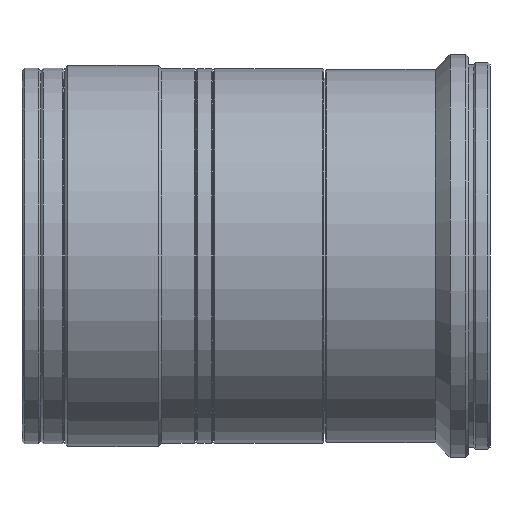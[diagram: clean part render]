
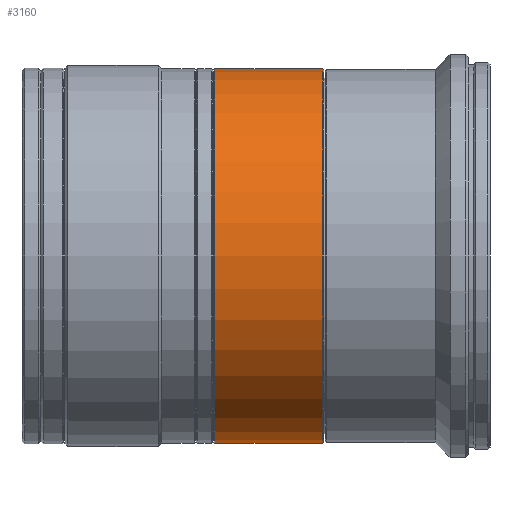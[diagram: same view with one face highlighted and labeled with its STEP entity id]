
A CAD part, front view. The second image highlights one B-rep face of the part: STEP entity #3160.
In plain terms, the highlighted cylindrical face has radius 34.9 mm (diameter 69.8 mm), a partial arc.
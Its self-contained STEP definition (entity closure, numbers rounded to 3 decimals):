
#13 = VECTOR ( 'NONE', #4553, 1000. ) ;
#49 = CARTESIAN_POINT ( 'NONE',  ( 56.036, 0., 34.9 ) ) ;
#292 = VERTEX_POINT ( 'NONE', #2474 ) ;
#397 = DIRECTION ( 'NONE',  ( -1., 0., 0. ) ) ;
#525 = VECTOR ( 'NONE', #5322, 1000. ) ;
#722 = DIRECTION ( 'NONE',  ( -1., 0., 0. ) ) ;
#768 = CARTESIAN_POINT ( 'NONE',  ( 0., 0., -34.9 ) ) ;
#984 = CARTESIAN_POINT ( 'NONE',  ( 35.936, 0., -34.9 ) ) ;
#1072 = CARTESIAN_POINT ( 'NONE',  ( 35.936, 0., 34.9 ) ) ;
#1214 = AXIS2_PLACEMENT_3D ( 'NONE', #2923, #397, #3333 ) ;
#1580 = CARTESIAN_POINT ( 'NONE',  ( 0., 0., 0. ) ) ;
#1704 = VERTEX_POINT ( 'NONE', #49 ) ;
#1860 = ORIENTED_EDGE ( 'NONE', *, *, #2606, .F. ) ;
#2053 = CARTESIAN_POINT ( 'NONE',  ( 56.036, 0., 0. ) ) ;
#2258 = VERTEX_POINT ( 'NONE', #1072 ) ;
#2373 = CIRCLE ( 'NONE', #5062, 34.9 ) ;
#2389 = CARTESIAN_POINT ( 'NONE',  ( 0., 0., 34.9 ) ) ;
#2449 = CYLINDRICAL_SURFACE ( 'NONE', #2688, 34.9 ) ;
#2471 = DIRECTION ( 'NONE',  ( 0., 0., 1. ) ) ;
#2474 = CARTESIAN_POINT ( 'NONE',  ( 56.036, 0., -34.9 ) ) ;
#2586 = FACE_OUTER_BOUND ( 'NONE', #3597, .T. ) ;
#2606 = EDGE_CURVE ( 'NONE', #3477, #2258, #4482, .T. ) ;
#2688 = AXIS2_PLACEMENT_3D ( 'NONE', #1580, #722, #4089 ) ;
#2923 = CARTESIAN_POINT ( 'NONE',  ( 35.936, 0., 0. ) ) ;
#3019 = EDGE_CURVE ( 'NONE', #292, #1704, #2373, .T. ) ;
#3160 = ADVANCED_FACE ( 'NONE', ( #2586 ), #2449, .T. ) ;
#3333 = DIRECTION ( 'NONE',  ( 0., 0., 1. ) ) ;
#3477 = VERTEX_POINT ( 'NONE', #984 ) ;
#3597 = EDGE_LOOP ( 'NONE', ( #5067, #5230, #4278, #1860 ) ) ;
#3660 = EDGE_CURVE ( 'NONE', #1704, #2258, #3999, .T. ) ;
#3785 = EDGE_CURVE ( 'NONE', #292, #3477, #4456, .T. ) ;
#3999 = LINE ( 'NONE', #2389, #525 ) ;
#4089 = DIRECTION ( 'NONE',  ( 0., 0., 1. ) ) ;
#4278 = ORIENTED_EDGE ( 'NONE', *, *, #3660, .T. ) ;
#4456 = LINE ( 'NONE', #768, #13 ) ;
#4482 = CIRCLE ( 'NONE', #1214, 34.9 ) ;
#4553 = DIRECTION ( 'NONE',  ( -1., 0., 0. ) ) ;
#4996 = DIRECTION ( 'NONE',  ( -1., 0., 0. ) ) ;
#5062 = AXIS2_PLACEMENT_3D ( 'NONE', #2053, #4996, #2471 ) ;
#5067 = ORIENTED_EDGE ( 'NONE', *, *, #3785, .F. ) ;
#5230 = ORIENTED_EDGE ( 'NONE', *, *, #3019, .T. ) ;
#5322 = DIRECTION ( 'NONE',  ( -1., 0., 0. ) ) ;
